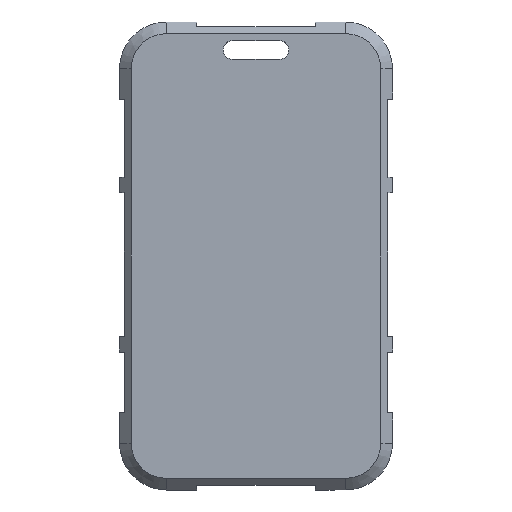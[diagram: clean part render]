
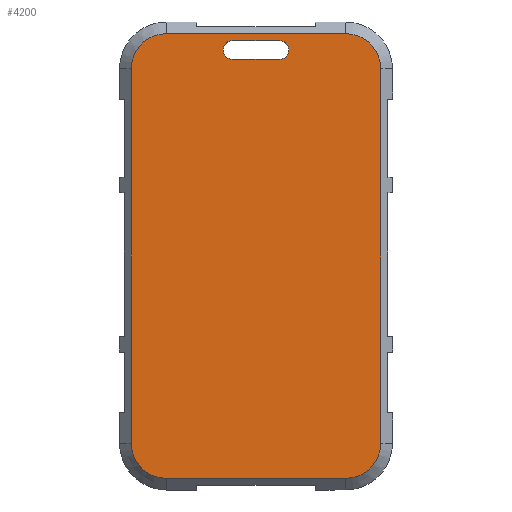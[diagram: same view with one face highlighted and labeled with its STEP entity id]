
A CAD part, front view. The second image highlights one B-rep face of the part: STEP entity #4200.
In plain terms, the highlighted planar face has unit normal (0, -1, 0).
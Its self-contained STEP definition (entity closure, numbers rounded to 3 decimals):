
#90 = AXIS2_PLACEMENT_3D ( 'NONE', #8344, #1549, #10102 ) ;
#257 = ORIENTED_EDGE ( 'NONE', *, *, #527, .T. ) ;
#272 = ORIENTED_EDGE ( 'NONE', *, *, #5219, .F. ) ;
#290 = EDGE_CURVE ( 'NONE', #10660, #15144, #4445, .T. ) ;
#450 = EDGE_CURVE ( 'NONE', #3374, #3338, #15131, .T. ) ;
#527 = EDGE_CURVE ( 'NONE', #6429, #7709, #8830, .T. ) ;
#731 = PLANE ( 'NONE',  #7170 ) ;
#1231 = ORIENTED_EDGE ( 'NONE', *, *, #9559, .F. ) ;
#1318 = CARTESIAN_POINT ( 'NONE',  ( 5.629, -5., -52.5 ) ) ;
#1323 = CARTESIAN_POINT ( 'NONE',  ( 16.25, -5., 2.4 ) ) ;
#1549 = DIRECTION ( 'NONE',  ( 0., -1., 0. ) ) ;
#1560 = CARTESIAN_POINT ( 'NONE',  ( 0., -5., 1.2 ) ) ;
#1635 = ORIENTED_EDGE ( 'NONE', *, *, #290, .T. ) ;
#1643 = DIRECTION ( 'NONE',  ( 0., 0., -1. ) ) ;
#2063 = LINE ( 'NONE', #1318, #15653 ) ;
#2171 = ORIENTED_EDGE ( 'NONE', *, *, #7633, .F. ) ;
#2195 = EDGE_CURVE ( 'NONE', #15669, #12508, #2063, .T. ) ;
#2483 = DIRECTION ( 'NONE',  ( 1., 0., 0. ) ) ;
#2722 = AXIS2_PLACEMENT_3D ( 'NONE', #10296, #12551, #1643 ) ;
#2764 = AXIS2_PLACEMENT_3D ( 'NONE', #10558, #11798, #6827 ) ;
#2944 = ORIENTED_EDGE ( 'NONE', *, *, #5617, .T. ) ;
#3338 = VERTEX_POINT ( 'NONE', #5195 ) ;
#3365 = ORIENTED_EDGE ( 'NONE', *, *, #12710, .T. ) ;
#3374 = VERTEX_POINT ( 'NONE', #5247 ) ;
#3483 = CIRCLE ( 'NONE', #10265, 1.2 ) ;
#3574 = DIRECTION ( 'NONE',  ( 0., 0., -1. ) ) ;
#3583 = LINE ( 'NONE', #15744, #11993 ) ;
#3633 = EDGE_CURVE ( 'NONE', #7709, #10577, #8936, .T. ) ;
#4085 = EDGE_CURVE ( 'NONE', #12508, #10660, #6187, .T. ) ;
#4200 = ADVANCED_FACE ( 'NONE', ( #10763, #9051 ), #731, .T. ) ;
#4436 = DIRECTION ( 'NONE',  ( -1., 0., 0. ) ) ;
#4445 = LINE ( 'NONE', #15566, #8068 ) ;
#5195 = CARTESIAN_POINT ( 'NONE',  ( 10.25, -5., 1.2 ) ) ;
#5219 = EDGE_CURVE ( 'NONE', #8279, #9568, #3483, .T. ) ;
#5237 = EDGE_LOOP ( 'NONE', ( #1635, #8958, #257, #10467, #3365, #2944, #13074, #7980 ) ) ;
#5247 = CARTESIAN_POINT ( 'NONE',  ( 10.25, -5., 3.6 ) ) ;
#5447 = CARTESIAN_POINT ( 'NONE',  ( 1.75, -5., -52.5 ) ) ;
#5466 = DIRECTION ( 'NONE',  ( 0., 0., -1. ) ) ;
#5524 = DIRECTION ( 'NONE',  ( 0., -1., 0. ) ) ;
#5617 = EDGE_CURVE ( 'NONE', #13487, #15669, #13968, .T. ) ;
#5730 = CARTESIAN_POINT ( 'NONE',  ( 24.75, -5., -52.5 ) ) ;
#6023 = CARTESIAN_POINT ( 'NONE',  ( -2.75, -5., -48. ) ) ;
#6187 = CIRCLE ( 'NONE', #90, 4.5 ) ;
#6297 = DIRECTION ( 'NONE',  ( 0., -1., 0. ) ) ;
#6429 = VERTEX_POINT ( 'NONE', #11016 ) ;
#6596 = DIRECTION ( 'NONE',  ( 0., -1., 0. ) ) ;
#6827 = DIRECTION ( 'NONE',  ( 0., 0., -1. ) ) ;
#7022 = DIRECTION ( 'NONE',  ( 0., 0., 1. ) ) ;
#7149 = DIRECTION ( 'NONE',  ( -1., 0., 0. ) ) ;
#7170 = AXIS2_PLACEMENT_3D ( 'NONE', #8050, #6596, #10332 ) ;
#7466 = CARTESIAN_POINT ( 'NONE',  ( 1.75, -5., 4.5 ) ) ;
#7551 = CARTESIAN_POINT ( 'NONE',  ( 16.25, -5., 3.6 ) ) ;
#7633 = EDGE_CURVE ( 'NONE', #9568, #3374, #3583, .T. ) ;
#7709 = VERTEX_POINT ( 'NONE', #7466 ) ;
#7776 = VECTOR ( 'NONE', #3574, 1000. ) ;
#7906 = CARTESIAN_POINT ( 'NONE',  ( -2.75, -5., -48. ) ) ;
#7910 = AXIS2_PLACEMENT_3D ( 'NONE', #14404, #15667, #12079 ) ;
#7980 = ORIENTED_EDGE ( 'NONE', *, *, #4085, .T. ) ;
#8050 = CARTESIAN_POINT ( 'NONE',  ( 0., -5., 0. ) ) ;
#8068 = VECTOR ( 'NONE', #7022, 1000. ) ;
#8279 = VERTEX_POINT ( 'NONE', #8829 ) ;
#8344 = CARTESIAN_POINT ( 'NONE',  ( 24.75, -5., -48. ) ) ;
#8680 = VECTOR ( 'NONE', #14969, 1000. ) ;
#8829 = CARTESIAN_POINT ( 'NONE',  ( 16.25, -5., 1.2 ) ) ;
#8830 = LINE ( 'NONE', #11571, #12846 ) ;
#8936 = CIRCLE ( 'NONE', #2764, 4.5 ) ;
#8958 = ORIENTED_EDGE ( 'NONE', *, *, #15186, .T. ) ;
#9051 = FACE_BOUND ( 'NONE', #9542, .T. ) ;
#9542 = EDGE_LOOP ( 'NONE', ( #13841, #2171, #272, #1231 ) ) ;
#9559 = EDGE_CURVE ( 'NONE', #3338, #8279, #13624, .T. ) ;
#9568 = VERTEX_POINT ( 'NONE', #7551 ) ;
#10102 = DIRECTION ( 'NONE',  ( 0., 0., -1. ) ) ;
#10265 = AXIS2_PLACEMENT_3D ( 'NONE', #1323, #6297, #11093 ) ;
#10296 = CARTESIAN_POINT ( 'NONE',  ( 10.25, -5., 2.4 ) ) ;
#10332 = DIRECTION ( 'NONE',  ( 0., 0., -1. ) ) ;
#10351 = CARTESIAN_POINT ( 'NONE',  ( 29.25, -5., 0. ) ) ;
#10467 = ORIENTED_EDGE ( 'NONE', *, *, #3633, .T. ) ;
#10558 = CARTESIAN_POINT ( 'NONE',  ( 1.75, -5., 0. ) ) ;
#10577 = VERTEX_POINT ( 'NONE', #15183 ) ;
#10660 = VERTEX_POINT ( 'NONE', #11490 ) ;
#10763 = FACE_OUTER_BOUND ( 'NONE', #5237, .T. ) ;
#11016 = CARTESIAN_POINT ( 'NONE',  ( 24.75, -5., 4.5 ) ) ;
#11093 = DIRECTION ( 'NONE',  ( 0., 0., -1. ) ) ;
#11490 = CARTESIAN_POINT ( 'NONE',  ( 29.25, -5., -48. ) ) ;
#11562 = LINE ( 'NONE', #6023, #7776 ) ;
#11571 = CARTESIAN_POINT ( 'NONE',  ( 1.75, -5., 4.5 ) ) ;
#11644 = CARTESIAN_POINT ( 'NONE',  ( 24.75, -5., 0. ) ) ;
#11798 = DIRECTION ( 'NONE',  ( 0., -1., 0. ) ) ;
#11993 = VECTOR ( 'NONE', #7149, 1000. ) ;
#12079 = DIRECTION ( 'NONE',  ( 0., 0., -1. ) ) ;
#12486 = AXIS2_PLACEMENT_3D ( 'NONE', #11644, #5524, #5466 ) ;
#12508 = VERTEX_POINT ( 'NONE', #5730 ) ;
#12551 = DIRECTION ( 'NONE',  ( 0., -1., 0. ) ) ;
#12710 = EDGE_CURVE ( 'NONE', #10577, #13487, #11562, .T. ) ;
#12846 = VECTOR ( 'NONE', #4436, 1000. ) ;
#13063 = CIRCLE ( 'NONE', #12486, 4.5 ) ;
#13074 = ORIENTED_EDGE ( 'NONE', *, *, #2195, .T. ) ;
#13487 = VERTEX_POINT ( 'NONE', #7906 ) ;
#13624 = LINE ( 'NONE', #1560, #8680 ) ;
#13841 = ORIENTED_EDGE ( 'NONE', *, *, #450, .F. ) ;
#13968 = CIRCLE ( 'NONE', #7910, 4.5 ) ;
#14404 = CARTESIAN_POINT ( 'NONE',  ( 1.75, -5., -48. ) ) ;
#14969 = DIRECTION ( 'NONE',  ( 1., 0., 0. ) ) ;
#15131 = CIRCLE ( 'NONE', #2722, 1.2 ) ;
#15144 = VERTEX_POINT ( 'NONE', #10351 ) ;
#15183 = CARTESIAN_POINT ( 'NONE',  ( -2.75, -5., 0. ) ) ;
#15186 = EDGE_CURVE ( 'NONE', #15144, #6429, #13063, .T. ) ;
#15566 = CARTESIAN_POINT ( 'NONE',  ( 29.25, -5., -44.121 ) ) ;
#15653 = VECTOR ( 'NONE', #2483, 1000. ) ;
#15667 = DIRECTION ( 'NONE',  ( 0., -1., 0. ) ) ;
#15669 = VERTEX_POINT ( 'NONE', #5447 ) ;
#15744 = CARTESIAN_POINT ( 'NONE',  ( 0., -5., 3.6 ) ) ;
